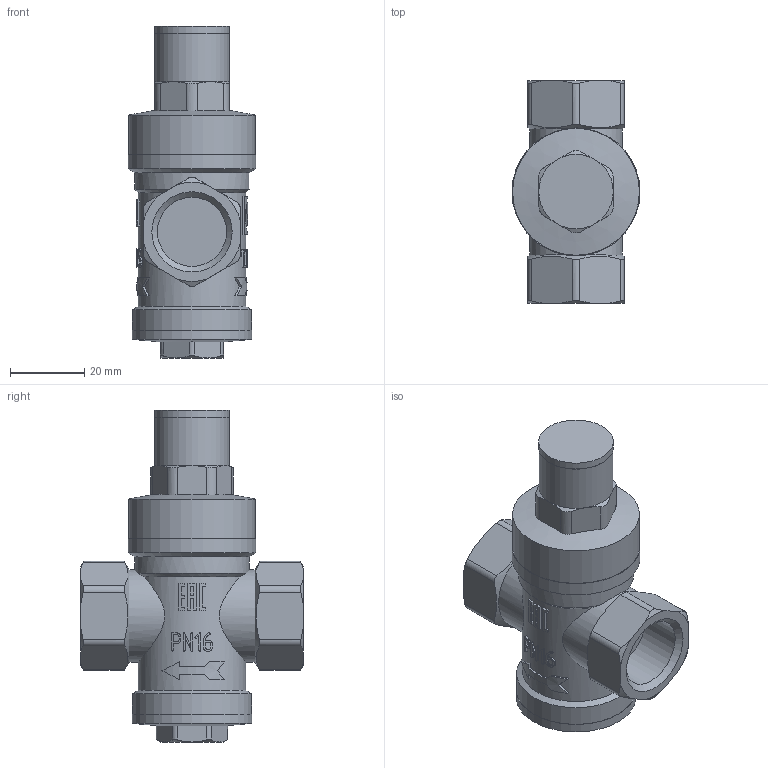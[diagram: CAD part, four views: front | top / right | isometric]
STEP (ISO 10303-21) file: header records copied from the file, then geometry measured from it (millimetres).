
FILE_DESCRIPTION(('STEP AP242'), '1');
FILE_NAME('VT.083.N.04', '', ('UNSPECIFIED'), ('UNSPECIFIED'), 'C3D Converter', 'C3D Toolkit', '');
FILE_SCHEMA(('AP242_MANAGED_MODEL_BASED_3D_ENGINEERING_MIM_LF { 1 0 10303 442 1 1 4 }'));
Length unit declared in the file: millimetre
Bounding box: 34.5 x 60 x 89.5 mm (x, y, z)
Volume: 67099.7 mm3; surface area: 14517.1 mm2
Topology: 1 solids, 1 shells, 372 faces, 1033 edges, 687 vertices
Faces by surface type: plane 168, extrusion 113, cylinder 57, cone 34
Full cylindrical faces by diameter (mm): 18.632 x2, 20 x1, 20.1 x1, 25 x2, 29 x1, 31 x1, 32.1 x1, 32.2 x1, 34.2 x1, 34.5 x1
Entity records: 19559 total; most frequent: CARTESIAN_POINT 10826, ORIENTED_EDGE 2000, DIRECTION 1372, EDGE_CURVE 1000, VERTEX_POINT 675, VECTOR 532, B_SPLINE_CURVE_WITH_KNOTS 480, AXIS2_PLACEMENT_3D 420
